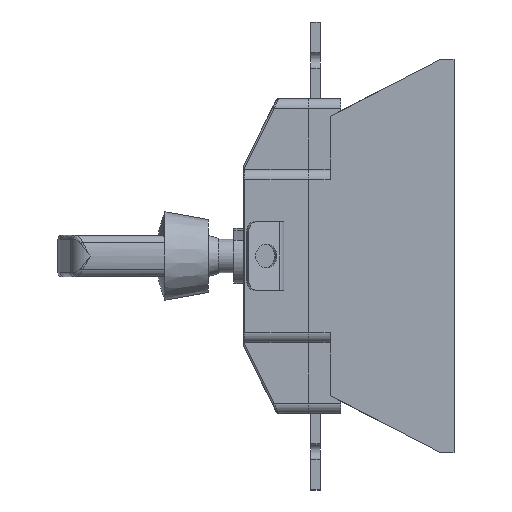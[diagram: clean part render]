
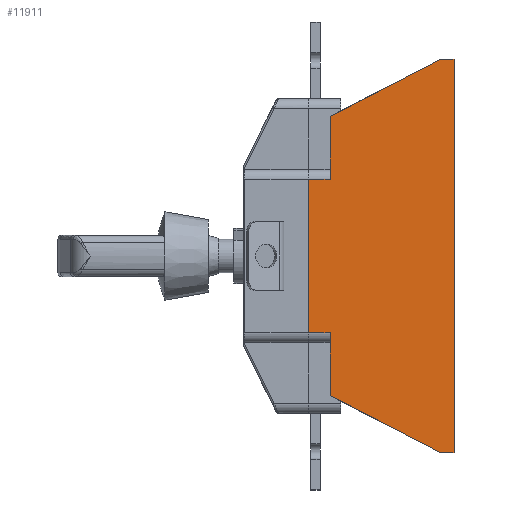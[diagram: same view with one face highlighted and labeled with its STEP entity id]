
A CAD part, left-side view. The second image highlights one B-rep face of the part: STEP entity #11911.
In plain terms, the highlighted planar face has unit normal (-1, 0, 0).
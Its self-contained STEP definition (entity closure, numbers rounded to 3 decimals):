
#206 = LINE ( 'NONE', #2210, #5263 ) ;
#251 = DIRECTION ( 'NONE',  ( 0., 1., 0. ) ) ;
#636 = CARTESIAN_POINT ( 'NONE',  ( 0., 63., -71. ) ) ;
#875 = ORIENTED_EDGE ( 'NONE', *, *, #2277, .F. ) ;
#909 = CARTESIAN_POINT ( 'NONE',  ( 0., 0., 0. ) ) ;
#944 = VERTEX_POINT ( 'NONE', #4599 ) ;
#1715 = VERTEX_POINT ( 'NONE', #7003 ) ;
#1889 = ORIENTED_EDGE ( 'NONE', *, *, #14455, .F. ) ;
#2164 = EDGE_CURVE ( 'NONE', #6868, #13566, #3922, .T. ) ;
#2210 = CARTESIAN_POINT ( 'NONE',  ( 0., 7., -100. ) ) ;
#2277 = EDGE_CURVE ( 'NONE', #13904, #14323, #15638, .T. ) ;
#2477 = DIRECTION ( 'NONE',  ( -1., 0., 0. ) ) ;
#2515 = CARTESIAN_POINT ( 'NONE',  ( 0., 0., -100. ) ) ;
#3537 = DIRECTION ( 'NONE',  ( 0., 0., 1. ) ) ;
#3678 = ORIENTED_EDGE ( 'NONE', *, *, #5230, .T. ) ;
#3840 = VERTEX_POINT ( 'NONE', #9108 ) ;
#3922 = LINE ( 'NONE', #18240, #10836 ) ;
#4000 = EDGE_CURVE ( 'NONE', #1715, #6296, #206, .T. ) ;
#4599 = CARTESIAN_POINT ( 'NONE',  ( 0., 63., 39. ) ) ;
#4790 = VECTOR ( 'NONE', #12636, 1000. ) ;
#5067 = DIRECTION ( 'NONE',  ( 0., -1., 0. ) ) ;
#5178 = LINE ( 'NONE', #14805, #10736 ) ;
#5230 = EDGE_CURVE ( 'NONE', #944, #14323, #14427, .T. ) ;
#5263 = VECTOR ( 'NONE', #15639, 1000. ) ;
#5296 = PLANE ( 'NONE',  #6488 ) ;
#5994 = DIRECTION ( 'NONE',  ( 0., 0., -1. ) ) ;
#6085 = VECTOR ( 'NONE', #6305, 1000. ) ;
#6126 = LINE ( 'NONE', #9975, #17170 ) ;
#6296 = VERTEX_POINT ( 'NONE', #636 ) ;
#6305 = DIRECTION ( 'NONE',  ( 0., -0.888, 0.46 ) ) ;
#6459 = EDGE_CURVE ( 'NONE', #6296, #3840, #6126, .T. ) ;
#6488 = AXIS2_PLACEMENT_3D ( 'NONE', #909, #2477, #12762 ) ;
#6606 = VECTOR ( 'NONE', #251, 1000. ) ;
#6868 = VERTEX_POINT ( 'NONE', #13151 ) ;
#7003 = CARTESIAN_POINT ( 'NONE',  ( 0., 7., -100. ) ) ;
#7038 = VERTEX_POINT ( 'NONE', #18806 ) ;
#7809 = EDGE_CURVE ( 'NONE', #7038, #6868, #9994, .T. ) ;
#7834 = EDGE_CURVE ( 'NONE', #13904, #3840, #8820, .T. ) ;
#8134 = VECTOR ( 'NONE', #5067, 1000. ) ;
#8644 = CARTESIAN_POINT ( 'NONE',  ( 0., 74., -39. ) ) ;
#8672 = DIRECTION ( 'NONE',  ( 0., 0., 1. ) ) ;
#8820 = LINE ( 'NONE', #18155, #8134 ) ;
#9108 = CARTESIAN_POINT ( 'NONE',  ( 0., 63., -39. ) ) ;
#9975 = CARTESIAN_POINT ( 'NONE',  ( 0., 63., 71. ) ) ;
#9994 = LINE ( 'NONE', #16844, #6085 ) ;
#10075 = LINE ( 'NONE', #12602, #17669 ) ;
#10275 = VERTEX_POINT ( 'NONE', #2515 ) ;
#10736 = VECTOR ( 'NONE', #5994, 1000. ) ;
#10836 = VECTOR ( 'NONE', #18181, 1000. ) ;
#10874 = CARTESIAN_POINT ( 'NONE',  ( 0., 0., -100. ) ) ;
#11911 = ADVANCED_FACE ( 'NONE', ( #14689 ), #5296, .T. ) ;
#12399 = EDGE_CURVE ( 'NONE', #944, #7038, #10075, .T. ) ;
#12602 = CARTESIAN_POINT ( 'NONE',  ( 0., 63., 71. ) ) ;
#12636 = DIRECTION ( 'NONE',  ( 0., 1., 0. ) ) ;
#12762 = DIRECTION ( 'NONE',  ( 0., 0., 1. ) ) ;
#12881 = ORIENTED_EDGE ( 'NONE', *, *, #12399, .F. ) ;
#13151 = CARTESIAN_POINT ( 'NONE',  ( 0., 7., 100. ) ) ;
#13401 = ORIENTED_EDGE ( 'NONE', *, *, #4000, .F. ) ;
#13456 = CARTESIAN_POINT ( 'NONE',  ( 0., 74., 39. ) ) ;
#13566 = VERTEX_POINT ( 'NONE', #17954 ) ;
#13904 = VERTEX_POINT ( 'NONE', #8644 ) ;
#13989 = ORIENTED_EDGE ( 'NONE', *, *, #6459, .F. ) ;
#14323 = VERTEX_POINT ( 'NONE', #13456 ) ;
#14427 = LINE ( 'NONE', #16352, #6606 ) ;
#14455 = EDGE_CURVE ( 'NONE', #10275, #1715, #19076, .T. ) ;
#14689 = FACE_OUTER_BOUND ( 'NONE', #15852, .T. ) ;
#14805 = CARTESIAN_POINT ( 'NONE',  ( 0., 0., -100. ) ) ;
#14814 = ORIENTED_EDGE ( 'NONE', *, *, #2164, .F. ) ;
#15638 = LINE ( 'NONE', #17113, #16107 ) ;
#15639 = DIRECTION ( 'NONE',  ( 0., 0.888, 0.46 ) ) ;
#15852 = EDGE_LOOP ( 'NONE', ( #875, #16412, #13989, #13401, #1889, #18354, #14814, #16173, #12881, #3678 ) ) ;
#16107 = VECTOR ( 'NONE', #16865, 1000. ) ;
#16173 = ORIENTED_EDGE ( 'NONE', *, *, #7809, .F. ) ;
#16352 = CARTESIAN_POINT ( 'NONE',  ( 0., 0., 39. ) ) ;
#16412 = ORIENTED_EDGE ( 'NONE', *, *, #7834, .T. ) ;
#16715 = EDGE_CURVE ( 'NONE', #13566, #10275, #5178, .T. ) ;
#16844 = CARTESIAN_POINT ( 'NONE',  ( 0., 7., 100. ) ) ;
#16865 = DIRECTION ( 'NONE',  ( 0., 0., 1. ) ) ;
#17113 = CARTESIAN_POINT ( 'NONE',  ( 0., 74., 44. ) ) ;
#17170 = VECTOR ( 'NONE', #8672, 1000. ) ;
#17669 = VECTOR ( 'NONE', #3537, 1000. ) ;
#17954 = CARTESIAN_POINT ( 'NONE',  ( 0., 0., 100. ) ) ;
#18155 = CARTESIAN_POINT ( 'NONE',  ( 0., 0., -39. ) ) ;
#18181 = DIRECTION ( 'NONE',  ( 0., -1., 0. ) ) ;
#18240 = CARTESIAN_POINT ( 'NONE',  ( 0., 0., 100. ) ) ;
#18354 = ORIENTED_EDGE ( 'NONE', *, *, #16715, .F. ) ;
#18806 = CARTESIAN_POINT ( 'NONE',  ( 0., 63., 71. ) ) ;
#19076 = LINE ( 'NONE', #10874, #4790 ) ;
